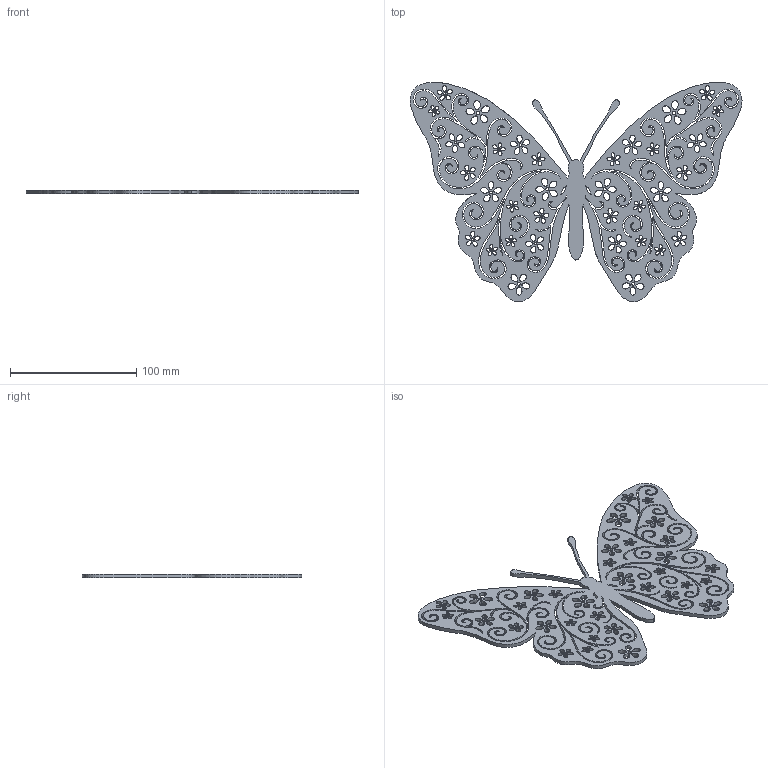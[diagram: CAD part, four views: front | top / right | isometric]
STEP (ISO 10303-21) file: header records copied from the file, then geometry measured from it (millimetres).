
FILE_DESCRIPTION(('STEP AP214'),'1');
FILE_NAME('black-white-butterfly-vector-graphics.stp','2026-06-27T09:29:58',(' '),(' '),'Spatial InterOp 3D',' ',' ');
FILE_SCHEMA(('AUTOMOTIVE_DESIGN { 1 0 10303 214 1 1 1 1 }'));
Length unit declared in the file: metre
Products named in the file (1): 1782562344
Bounding box: 263.42 x 174.01 x 3 mm (x, y, z)
Volume: 63535.8 mm3; surface area: 67359.1 mm2
Topology: 1 solids, 1 shells, 459 faces, 1371 edges, 914 vertices
Faces by surface type: extrusion 419, cylinder 38, plane 2
Full cylindrical faces by diameter (mm): 1.227 x2, 1.242 x4, 1.286 x2, 1.398 x2, 1.458 x2, 1.633 x2, 1.652 x2, 1.659 x4, 2.041 x2, 2.078 x2, 2.142 x2, 2.264 x2, 2.382 x2, 2.426 x2, 2.605 x2
Entity records: 32537 total; most frequent: CARTESIAN_POINT 17417, ORIENTED_EDGE 2674, EDGE_CURVE 1337, B_SPLINE_CURVE_WITH_KNOTS 1200, DIRECTION 1076, EDGE_LOOP 921, VERTEX_POINT 914, VECTOR 842
